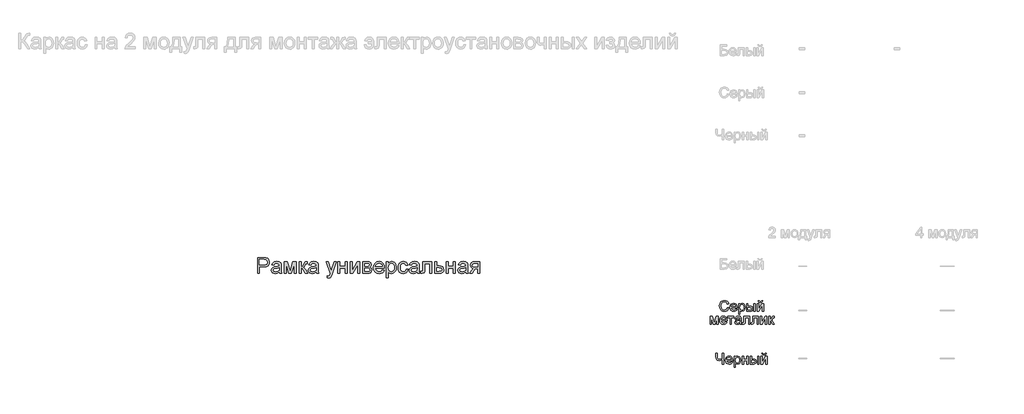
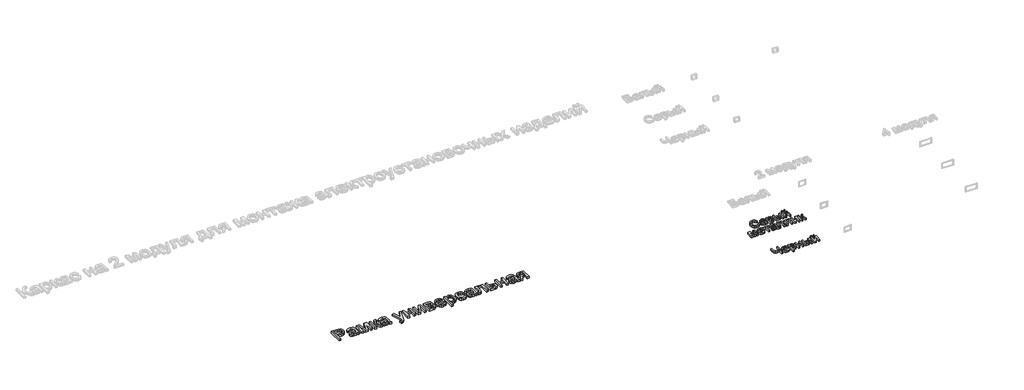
# One storey, part 18 of 48: 3 proxies.
"""IFC4 building model written with IfcOpenShell, lengths in millimetres."""

from ifc_helpers import new_model, si_unit, origin, origin_with_axes, place, context, project, spatial, polyline, outline, extrude, element, save

model = new_model("IFC4")

# Units and contexts
model_context = context("Model", 3, world=origin())
ifc_project = project(units=[si_unit("LENGTHUNIT", "METRE", prefix="MILLI")], contexts=[model_context])

# Site, building, storey
site = spatial("IfcSite", under=ifc_project)
building = spatial("IfcBuilding", under=site)
storey = spatial("IfcBuildingStorey", under=building, Name="Этаж 01", Elevation=0.0)

# Proxies
placement = place(None, origin())
element("IfcBuildingElementProxy", 1, Name="150 мм Arial", ObjectType="150 мм Arial", at=placement, inside=storey, context=model_context, shape_type="SweptSolid", body=[
    extrude(outline(polyline([(72135.2123752, -7707.9423103), (72135.2123752, -7557.257845), (72191.0568621, -7557.257845), (72213.5712402, -7558.6925848), (72231.8733695, -7565.737525), (72243.7375638, -7580.305652), (72248.2257242, -7600.8518615), (72245.1952962, -7618.6113648), (72236.1040124, -7633.409418), (72219.1032657, -7643.3974142), (72192.3444491, -7646.7267463), (72154.0479334, -7646.7267463), (72154.0479334, -7707.9423103), (72135.2123752, -7707.9423103)]), holes=[polyline([(72154.0479334, -7627.8911881), (72193.4480951, -7627.8911881), (72210.1499377, -7626.1621427), (72221.1863975, -7620.9750066), (72227.3392239, -7612.6516765), (72229.390166, -7601.5140491), (72224.5525178, -7585.9158525), (72211.8421948, -7577.3809902), (72193.0066367, -7576.0934032), (72154.0479334, -7576.0934032), (72154.0479334, -7627.8911881)])]), origin_with_axes(), (0.0, 0.0, 1.0), 20.0),
    extrude(outline(polyline([(72342.4035149, -7693.8156417), (72324.1381739, -7706.5811469), (72303.9598464, -7710.296755), (72288.2190956, -7708.0618719), (72276.6078201, -7701.3572226), (72269.4479168, -7691.1760883), (72267.0612823, -7678.5117507), (72270.6665259, -7663.6125299), (72280.1394872, -7652.7967992), (72293.3280568, -7646.6163817), (72309.6252291, -7643.7836903), (72342.2931503, -7637.3089672), (72342.4035149, -7633.1151125), (72341.1067309, -7624.7090089), (72337.2163788, -7619.209173), (72328.5159696, -7615.1256829), (72316.3942579, -7613.7645195), (72297.3379705, -7617.3881572), (72288.2512852, -7630.2456329), (72269.4157271, -7627.8911881), (72277.5643133, -7609.4970884), (72293.9718503, -7598.7181459), (72318.822279, -7594.9289614), (72341.6493568, -7598.2766875), (72354.5436208, -7606.6827911), (72360.3193681, -7619.4666904), (72361.2390731, -7635.9478038), (72361.2390731, -7659.3818869), (72362.1955663, -7692.1049904), (72365.9479626, -7707.9423103), (72347.1124045, -7707.9423103), (72342.4035149, -7693.8156417)]), holes=[polyline([(72342.4035149, -7656.1445254), (72312.0164621, -7661.9202727), (72295.8112602, -7664.9736932), (72288.4720144, -7669.9401002), (72285.8968405, -7677.1873755), (72291.5070409, -7687.3777067), (72307.9697602, -7691.4611969), (72327.0260475, -7686.9546424), (72339.3133062, -7676.0469413), (72342.2931503, -7661.4788143), (72342.4035149, -7656.1445254)])]), origin_with_axes(), (0.0, 0.0, 1.0), 20.0),
    extrude(outline(polyline([(72387.1379655, -7597.2834061), (72419.5483693, -7597.2834061), (72444.5275568, -7685.8693906), (72471.4565188, -7597.2834061), (72502.5057592, -7597.2834061), (72502.5057592, -7707.9423103), (72483.6702011, -7707.9423103), (72483.6702011, -7618.841291), (72456.5940862, -7707.9423103), (72431.8724161, -7707.9423103), (72405.9735237, -7614.5738599), (72405.9735237, -7707.9423103), (72387.1379655, -7707.9423103), (72387.1379655, -7597.2834061)])), origin_with_axes(), (0.0, 0.0, 1.0), 20.0),
    extrude(outline(polyline([(72530.7590965, -7597.2834061), (72549.5946546, -7597.2834061), (72549.5946546, -7644.3723015), (72562.213007, -7640.9877872), (72572.5504911, -7621.2693122), (72581.1405357, -7604.2547699), (72588.7189048, -7598.7181459), (72602.4960855, -7597.2834061), (72606.1013291, -7597.2834061), (72606.1013291, -7616.2293289), (72601.0245575, -7616.1189643), (72591.8275076, -7618.1055271), (72585.3527845, -7630.5031503), (72577.7560213, -7643.912449), (72567.1058376, -7650.4791426), (72578.988426, -7657.8091914), (72590.6502853, -7673.2510381), (72610.8102186, -7707.9423103), (72589.3994865, -7707.9423103), (72569.6442233, -7673.9868021), (72559.7114095, -7659.6210102), (72549.5946546, -7656.1445254), (72549.5946546, -7707.9423103), (72530.7590965, -7707.9423103), (72530.7590965, -7597.2834061)])), origin_with_axes(), (0.0, 0.0, 1.0), 20.0),
    extrude(outline(polyline([(72693.2157855, -7693.8156417), (72674.9504445, -7706.5811469), (72654.772117, -7710.296755), (72639.0313662, -7708.0618719), (72627.4200907, -7701.3572226), (72620.2601874, -7691.1760883), (72617.8735529, -7678.5117507), (72621.4787965, -7663.6125299), (72630.9517578, -7652.7967992), (72644.1403274, -7646.6163817), (72660.4374997, -7643.7836903), (72693.1054209, -7637.3089672), (72693.2157855, -7633.1151125), (72691.9190015, -7624.7090089), (72688.0286494, -7619.209173), (72679.3282402, -7615.1256829), (72667.2065285, -7613.7645195), (72648.1502411, -7617.3881572), (72639.0635558, -7630.2456329), (72620.2279977, -7627.8911881), (72628.3765839, -7609.4970884), (72644.7841209, -7598.7181459), (72669.6345496, -7594.9289614), (72692.4616274, -7598.2766875), (72705.3558914, -7606.6827911), (72711.1316387, -7619.4666904), (72712.0513437, -7635.9478038), (72712.0513437, -7659.3818869), (72713.0078369, -7692.1049904), (72716.7602332, -7707.9423103), (72697.9246751, -7707.9423103), (72693.2157855, -7693.8156417)]), holes=[polyline([(72693.2157855, -7656.1445254), (72662.8287327, -7661.9202727), (72646.6235308, -7664.9736932), (72639.284285, -7669.9401002), (72636.7091111, -7677.1873755), (72642.3193115, -7687.3777067), (72658.7820308, -7691.4611969), (72677.8383181, -7686.9546424), (72690.1255768, -7676.0469413), (72693.1054209, -7661.4788143), (72693.2157855, -7656.1445254)])]), origin_with_axes(), (0.0, 0.0, 1.0), 20.0),
    extrude(outline(polyline([(72796.8113554, -7750.3223161), (72794.4569106, -7732.1857338), (72804.0218425, -7733.8412027), (72812.961375, -7731.7626695), (72818.4428167, -7725.968528), (72823.5931646, -7712.0993768), (72825.0646926, -7707.5376401), (72785.0391315, -7597.2834061), (72804.9047593, -7597.2834061), (72826.1315504, -7658.7196993), (72833.5259785, -7683.2942166), (72840.9204066, -7661.5891789), (72862.7358089, -7597.2834061), (72882.4542838, -7597.2834061), (72843.9370389, -7710.5910606), (72833.9306487, -7735.1655779), (72823.0045534, -7748.4461179), (72808.3260618, -7752.6767609), (72796.8113554, -7750.3223161)])), origin_with_axes(), (0.0, 0.0, 1.0), 20.0),
    extrude(outline(polyline([(72898.0524804, -7597.2834061), (72916.8880386, -7597.2834061), (72916.8880386, -7639.663412), (72966.3313787, -7639.663412), (72966.3313787, -7597.2834061), (72985.1669369, -7597.2834061), (72985.1669369, -7707.9423103), (72966.3313787, -7707.9423103), (72966.3313787, -7658.4989701), (72916.8880386, -7658.4989701), (72916.8880386, -7707.9423103), (72898.0524804, -7707.9423103), (72898.0524804, -7597.2834061)])), origin_with_axes(), (0.0, 0.0, 1.0), 20.0),
    extrude(outline(polyline([(73013.4202741, -7597.2834061), (73032.2558323, -7597.2834061), (73032.2558323, -7681.6755358), (73078.5353873, -7597.2834061), (73102.8891753, -7597.2834061), (73102.8891753, -7707.9423103), (73084.0536172, -7707.9423103), (73084.0536172, -7624.0652154), (73038.0683678, -7707.9423103), (73013.4202741, -7707.9423103), (73013.4202741, -7597.2834061)])), origin_with_axes(), (0.0, 0.0, 1.0), 20.0),
    extrude(outline(polyline([(73131.1425126, -7597.2834061), (73172.6396016, -7597.2834061), (73195.393103, -7599.8033978), (73208.1953965, -7609.0372359), (73213.5480795, -7625.1320732), (73210.3107179, -7638.2102781), (73200.5618451, -7647.5360867), (73213.2169857, -7657.744812), (73218.256969, -7675.4951183), (73215.0655927, -7689.8517132), (73207.4780266, -7699.959271), (73195.4666794, -7705.9465504), (73179.0039602, -7707.9423103), (73131.1425126, -7707.9423103), (73131.1425126, -7597.2834061)]), holes=[polyline([(73149.9780707, -7639.663412), (73168.5928997, -7639.663412), (73183.951973, -7638.7069188), (73191.4199775, -7634.880946), (73194.7125213, -7627.9647645), (73193.2685845, -7622.345367), (73188.936774, -7618.7309264), (73169.1815109, -7616.1189643), (73149.9780707, -7616.1189643), (73149.9780707, -7639.663412)]), polyline([(73149.9780707, -7689.1067521), (73173.08106, -7689.1067521), (73193.5720872, -7685.7038437), (73197.8119272, -7681.063932), (73199.4214109, -7673.9500139), (73196.2024434, -7664.8817227), (73187.8147339, -7659.6026161), (73171.2416501, -7658.4989701), (73149.9780707, -7658.4989701), (73149.9780707, -7689.1067521)])]), origin_with_axes(), (0.0, 0.0, 1.0), 20.0),
    extrude(outline(polyline([(73319.2773649, -7674.9800835), (73337.7450411, -7677.3345283), (73331.0909755, -7691.2496647), (73320.4729814, -7701.6515282), (73306.1301821, -7708.1354483), (73288.3017009, -7710.296755), (73266.2011901, -7706.5673513), (73249.1958448, -7695.3791401), (73238.352523, -7677.4586884), (73234.7380824, -7653.5325632), (73238.3893112, -7628.8016961), (73249.3429976, -7610.3064288), (73266.1184166, -7598.7733282), (73287.2348431, -7594.9289614), (73307.6936806, -7598.7641312), (73324.0414367, -7610.2696406), (73334.7605984, -7628.7281197), (73338.3336523, -7653.4221986), (73338.2232877, -7658.4989701), (73253.5736406, -7658.4989701), (73256.8339948, -7672.5980476), (73264.4077653, -7682.9631228), (73275.3384591, -7689.3366784), (73288.6695829, -7691.4611969), (73307.1372591, -7687.5248595), (73319.2773649, -7674.9800835)]), holes=[polyline([(73253.5736406, -7639.663412), (73319.4980941, -7639.663412), (73316.9505113, -7629.712204), (73311.9565132, -7622.5936874), (73300.9752357, -7615.9718115), (73287.1612667, -7613.7645195), (73274.4647394, -7615.5257546), (73263.9663069, -7620.8094597), (73256.6684479, -7629.0454179), (73253.5736406, -7639.663412)])]), origin_with_axes(), (0.0, 0.0, 1.0), 20.0),
    extrude(outline(polyline([(73357.1692104, -7750.3223161), (73357.1692104, -7597.2834061), (73376.0047686, -7597.2834061), (73376.0047686, -7615.7510823), (73389.0277912, -7600.1344916), (73406.6125506, -7594.9289614), (73419.3504646, -7596.7499772), (73430.4880921, -7602.2130249), (73439.5563832, -7610.9870104), (73446.0862886, -7622.7408402), (73451.3470012, -7651.7667296), (73449.8616776, -7667.8753625), (73445.405707, -7682.2825411), (73438.1216435, -7694.2571001), (73428.1520414, -7703.0678738), (73416.5407659, -7708.4895347), (73404.3316822, -7710.296755), (73387.9425393, -7705.4591068), (73376.0047686, -7693.2270305), (73376.0047686, -7750.3223161), (73357.1692104, -7750.3223161)]), holes=[polyline([(73376.0047686, -7653.495775), (73378.0419151, -7670.3815586), (73384.1533548, -7682.1905706), (73393.1710622, -7689.1435403), (73403.927012, -7691.4611969), (73414.8577058, -7689.0607669), (73424.1053394, -7681.8594768), (73430.4099171, -7669.6182034), (73432.511443, -7652.0978234), (73430.4605009, -7635.3040103), (73424.3076745, -7623.3294514), (73415.3037627, -7616.1557525), (73404.6995642, -7613.7645195), (73394.053979, -7616.3075038), (73384.7051778, -7623.9364567), (73378.1798709, -7636.4122548), (73376.0047686, -7653.495775)])]), origin_with_axes(), (0.0, 0.0, 1.0), 20.0),
    extrude(outline(polyline([(73543.1703472, -7667.9167492), (73562.0059053, -7670.271194), (73556.7543898, -7687.0236203), (73546.8859553, -7699.6833595), (73533.3295038, -7707.6434062), (73517.0139373, -7710.296755), (73496.9781642, -7706.5949425), (73481.3109897, -7695.4895047), (73471.1988333, -7677.4678855), (73467.8281146, -7653.0175284), (73469.2674529, -7636.255905), (73473.5854678, -7621.7291647), (73480.8511372, -7609.9983276), (73491.133439, -7601.6244137), (73503.4344932, -7596.6028244), (73516.7564199, -7594.9289614), (73532.6719147, -7597.2282238), (73545.3960332, -7604.1260112), (73554.5241053, -7615.2544416), (73559.6514606, -7630.2456329), (73540.8159024, -7632.6000777), (73532.078705, -7618.4918031), (73516.9035727, -7613.7645195), (73504.7312772, -7616.0913731), (73495.0697763, -7623.071934), (73488.7651986, -7635.0832811), (73486.6636727, -7652.5024936), (73488.7192134, -7670.1562308), (73494.8858353, -7682.2089647), (73504.3725923, -7689.1481388), (73516.3885379, -7691.4611969), (73526.1420093, -7690.0172601), (73534.1388442, -7685.6854496), (73539.9559782, -7678.3554008), (73543.1703472, -7667.9167492)])), origin_with_axes(), (0.0, 0.0, 1.0), 20.0),
    extrude(outline(polyline([(73649.1203618, -7693.8156417), (73630.8550207, -7706.5811469), (73610.6766933, -7710.296755), (73594.9359424, -7708.0618719), (73583.324667, -7701.3572226), (73576.1647636, -7691.1760883), (73573.7781292, -7678.5117507), (73577.3833727, -7663.6125299), (73586.8563341, -7652.7967992), (73600.0449036, -7646.6163817), (73616.342076, -7643.7836903), (73649.0099972, -7637.3089672), (73649.1203618, -7633.1151125), (73647.8235778, -7624.7090089), (73643.9332257, -7619.209173), (73635.2328165, -7615.1256829), (73623.1111047, -7613.7645195), (73604.0548174, -7617.3881572), (73594.9681321, -7630.2456329), (73576.1325739, -7627.8911881), (73584.2811601, -7609.4970884), (73600.6886971, -7598.7181459), (73625.5391259, -7594.9289614), (73648.3662037, -7598.2766875), (73661.2604676, -7606.6827911), (73667.036215, -7619.4666904), (73667.9559199, -7635.9478038), (73667.9559199, -7659.3818869), (73668.9124131, -7692.1049904), (73672.6648095, -7707.9423103), (73653.8292513, -7707.9423103), (73649.1203618, -7693.8156417)]), holes=[polyline([(73649.1203618, -7656.1445254), (73618.733309, -7661.9202727), (73602.5281071, -7664.9736932), (73595.1888613, -7669.9401002), (73592.6136873, -7677.1873755), (73598.2238878, -7687.3777067), (73614.686607, -7691.4611969), (73633.7428944, -7686.9546424), (73646.030153, -7676.0469413), (73649.0099972, -7661.4788143), (73649.1203618, -7656.1445254)])]), origin_with_axes(), (0.0, 0.0, 1.0), 20.0),
    extrude(outline(polyline([(73703.2725915, -7597.2834061), (73788.0326032, -7597.2834061), (73788.0326032, -7707.8319457), (73769.197045, -7707.8319457), (73769.197045, -7616.1189643), (73722.1081496, -7616.1189643), (73722.1081496, -7668.9100306), (73720.8389567, -7693.2638187), (73713.8675929, -7703.5461204), (73697.3864796, -7707.9423103), (73682.0825886, -7706.9858171), (73682.0825886, -7689.1067521), (73690.5070862, -7689.1067521), (73699.0235544, -7687.9479238), (73702.4264629, -7684.2691039), (73703.2725915, -7667.8431728), (73703.2725915, -7597.2834061)])), origin_with_axes(), (0.0, 0.0, 1.0), 20.0),
    extrude(outline(polyline([(73816.2859404, -7597.2834061), (73835.1214985, -7597.2834061), (73835.1214985, -7637.3089672), (73856.8265363, -7637.3089672), (73875.6437003, -7639.6680105), (73889.5680338, -7646.7451404), (73898.1764725, -7657.9701398), (73901.0459521, -7672.7727915), (73898.6041353, -7686.2510681), (73891.2786851, -7697.6232203), (73878.5821578, -7705.3625378), (73860.0271096, -7707.9423103), (73816.2859404, -7707.9423103), (73816.2859404, -7597.2834061)]), holes=[polyline([(73835.1214985, -7689.1067521), (73852.7062579, -7689.1067521), (73875.4229711, -7685.1520207), (73880.5135382, -7680.0890447), (73882.2103939, -7672.8095797), (73877.1888047, -7661.2212969), (73869.1183934, -7657.4137182), (73854.9503381, -7656.1445254), (73835.1214985, -7656.1445254), (73835.1214985, -7689.1067521)])]), origin_with_axes(), (0.0, 0.0, 1.0), 20.0),
    extrude(outline(polyline([(73924.5903998, -7597.2834061), (73943.4259579, -7597.2834061), (73943.4259579, -7639.663412), (73992.8692981, -7639.663412), (73992.8692981, -7597.2834061), (74011.7048562, -7597.2834061), (74011.7048562, -7707.9423103), (73992.8692981, -7707.9423103), (73992.8692981, -7658.4989701), (73943.4259579, -7658.4989701), (73943.4259579, -7707.9423103), (73924.5903998, -7707.9423103), (73924.5903998, -7597.2834061)])), origin_with_axes(), (0.0, 0.0, 1.0), 20.0),
    extrude(outline(polyline([(74110.5915365, -7693.8156417), (74092.3261955, -7706.5811469), (74072.147868, -7710.296755), (74056.4071172, -7708.0618719), (74044.7958417, -7701.3572226), (74037.6359384, -7691.1760883), (74035.2493039, -7678.5117507), (74038.8545475, -7663.6125299), (74048.3275089, -7652.7967992), (74061.5160784, -7646.6163817), (74077.8132508, -7643.7836903), (74110.4811719, -7637.3089672), (74110.5915365, -7633.1151125), (74109.2947525, -7624.7090089), (74105.4044004, -7619.209173), (74096.7039912, -7615.1256829), (74084.5822795, -7613.7645195), (74065.5259921, -7617.3881572), (74056.4393068, -7630.2456329), (74037.6037487, -7627.8911881), (74045.7523349, -7609.4970884), (74062.1598719, -7598.7181459), (74087.0103006, -7594.9289614), (74109.8373784, -7598.2766875), (74122.7316424, -7606.6827911), (74128.5073897, -7619.4666904), (74129.4270947, -7635.9478038), (74129.4270947, -7659.3818869), (74130.3835879, -7692.1049904), (74134.1359842, -7707.9423103), (74115.3004261, -7707.9423103), (74110.5915365, -7693.8156417)]), holes=[polyline([(74110.5915365, -7656.1445254), (74080.2044837, -7661.9202727), (74063.9992818, -7664.9736932), (74056.660036, -7669.9401002), (74054.0848621, -7677.1873755), (74059.6950625, -7687.3777067), (74076.1577818, -7691.4611969), (74095.2140691, -7686.9546424), (74107.5013278, -7676.0469413), (74110.4811719, -7661.4788143), (74110.5915365, -7656.1445254)])]), origin_with_axes(), (0.0, 0.0, 1.0), 20.0),
    extrude(outline(polyline([(74240.0859988, -7597.2834061), (74240.0859988, -7707.9423103), (74221.2504407, -7707.9423103), (74221.2504407, -7665.5623044), (74210.986533, -7665.5623044), (74197.0070172, -7667.9535374), (74183.87363, -7684.0299806), (74168.8640446, -7707.9423103), (74147.0854305, -7707.9423103), (74165.994565, -7677.7024103), (74174.3454863, -7666.8498914), (74182.03422, -7662.0306373), (74169.1583502, -7658.0851029), (74160.1084531, -7650.5895072), (74154.7557701, -7640.6199052), (74152.9715424, -7629.2523515), (74155.4087606, -7616.3580876), (74162.7204153, -7606.1493622), (74174.6489889, -7599.4998951), (74190.9369643, -7597.2834061), (74240.0859988, -7597.2834061)]), holes=[polyline([(74221.2504407, -7616.1189643), (74196.418406, -7616.1189643), (74183.59312, -7617.2088147), (74176.313655, -7620.4783659), (74171.8071005, -7630.6870913), (74173.467168, -7637.8653887), (74178.4473705, -7642.8455912), (74201.9734241, -7646.7267463), (74221.2504407, -7646.7267463), (74221.2504407, -7616.1189643)])]), origin_with_axes(), (0.0, 0.0, 1.0), 20.0),
])
element("IfcBuildingElementProxy", 2, Name="100 мм Arial", ObjectType="100 мм Arial", at=placement, inside=storey, context=model_context, shape_type="SweptSolid", body=[
    extrude(outline(polyline([(76590.4328092, -8031.5319312), (76602.9898479, -8034.7692928), (76597.1957065, -8049.4017991), (76588.1028899, -8060.0918368), (76576.1589878, -8066.6309392), (76561.8115899, -8068.8106401), (76547.2465286, -8067.1613024), (76535.6797055, -8062.2132896), (76526.8137495, -8054.1382798), (76520.3512891, -8043.1079513), (76515.0905766, -8016.2525657), (76516.5774329, -8001.6047309), (76521.0380021, -7988.9557216), (76528.2392922, -7978.7071424), (76537.9483112, -7971.2605977), (76549.4630176, -7966.7264521), (76562.0813701, -7965.2150702), (76575.8493537, -7967.1709762), (76587.2322358, -7973.038694), (76595.874397, -7982.4564731), (76601.4202181, -7995.0625628), (76588.8631793, -7998.0546697), (76578.5624835, -7982.6158886), (76561.5908607, -7977.772109), (76541.9459622, -7983.1431861), (76530.8481887, -7997.5641603), (76527.6476153, -8016.2280402), (76531.4367999, -8037.8595015), (76543.2335492, -8051.6796018), (76560.5607912, -8056.2536013), (76571.0423623, -8054.6962342), (76579.776494, -8050.0241328), (76586.3707788, -8042.2863482), (76590.4328092, -8031.5319312)])), origin_with_axes(), (0.0, 0.0, 1.0), 20.0),
    extrude(outline(polyline([(76670.3367785, -8045.2661924), (76682.6485626, -8046.8358222), (76678.2125189, -8056.1125799), (76671.1338562, -8063.0471555), (76661.57199, -8067.3697689), (76649.6863359, -8068.8106401), (76634.9526619, -8066.3243709), (76623.6157651, -8058.8655635), (76616.3868839, -8046.9185957), (76613.9772569, -8030.9678455), (76616.4114094, -8014.4806007), (76623.713867, -8002.1504225), (76634.8974796, -7994.4616888), (76648.9750973, -7991.8987776), (76662.6143223, -7994.4555575), (76673.5128264, -8002.1258971), (76680.6589342, -8014.4315498), (76683.0409701, -8030.8942691), (76682.9673937, -8034.2787834), (76626.5342956, -8034.2787834), (76628.7078651, -8043.6781684), (76633.7570455, -8050.5882186), (76641.0441746, -8054.8372556), (76649.9315905, -8056.2536013), (76662.2433746, -8053.6293764), (76670.3367785, -8045.2661924)]), holes=[polyline([(76626.5342956, -8021.7217447), (76670.4839313, -8021.7217447), (76665.4562107, -8010.3419283), (76658.135359, -8005.9273444), (76648.9260464, -8004.4558164), (76633.4627399, -8009.1524432), (76628.5975005, -8014.643082), (76626.5342956, -8021.7217447)])]), origin_with_axes(), (0.0, 0.0, 1.0), 20.0),
    extrude(outline(polyline([(76695.5980089, -8095.4943474), (76695.5980089, -7993.4684074), (76708.1550476, -7993.4684074), (76708.1550476, -8005.7801916), (76716.8370627, -7995.3691311), (76728.5602356, -7991.8987776), (76744.4772633, -7996.7548199), (76754.876061, -8010.4400302), (76758.3832027, -8029.7906231), (76754.4223399, -8050.1344974), (76742.9198962, -8063.9913859), (76727.0396567, -8068.8106401), (76716.1135614, -8065.5855412), (76708.1550476, -8057.4308237), (76708.1550476, -8095.4943474), (76695.5980089, -8095.4943474)]), holes=[polyline([(76708.1550476, -8030.94332), (76709.5131453, -8042.2005091), (76713.5874384, -8050.0731838), (76719.5992434, -8054.7084969), (76726.7698766, -8056.2536013), (76734.0570058, -8054.6533146), (76740.2220949, -8049.8524546), (76744.4251467, -8041.6916057), (76745.8261639, -8030.0113523), (76744.4588692, -8018.8154769), (76740.3569849, -8010.8324376), (76734.354377, -8006.0499717), (76727.2849114, -8004.4558164), (76720.1878545, -8006.1511392), (76713.9553204, -8011.2371078), (76709.6051158, -8019.5543066), (76708.1550476, -8030.94332)])]), origin_with_axes(), (0.0, 0.0, 1.0), 20.0),
    extrude(outline(polyline([(76841.5735845, -7993.4684074), (76854.1306233, -7993.4684074), (76854.1306233, -8067.2410102), (76841.5735845, -8067.2410102), (76841.5735845, -7993.4684074)])), origin_with_axes(), (0.0, 0.0, 1.0), 20.0),
    extrude(outline(polyline([(76772.5098713, -7993.4684074), (76785.0669101, -7993.4684074), (76785.0669101, -8020.1521148), (76800.5915303, -8020.1521148), (76814.010026, -8021.7248104), (76823.952037, -8026.442897), (76830.1048633, -8033.9262299), (76832.1558055, -8043.7946644), (76830.4359571, -8052.7801821), (76825.2764122, -8060.3616169), (76816.3399454, -8065.5211619), (76803.2893316, -8067.2410102), (76772.5098713, -8067.2410102), (76772.5098713, -7993.4684074)]), holes=[polyline([(76785.0669101, -8054.6839714), (76797.9673054, -8054.6839714), (76814.620097, -8052.0474838), (76819.5987667, -8043.8191899), (76815.907684, -8036.093668), (76799.6105116, -8032.7091536), (76785.0669101, -8032.7091536), (76785.0669101, -8054.6839714)])]), origin_with_axes(), (0.0, 0.0, 1.0), 20.0),
    extrude(outline(polyline([(76913.7765575, -7966.7847001), (76923.1943365, -7966.7847001), (76917.0997581, -7980.7519531), (76903.5739635, -7985.6202582), (76888.93226, -7980.7887413), (76882.3839605, -7966.7847001), (76891.8017396, -7966.7847001), (76895.3334068, -7973.8602971), (76902.445792, -7976.2024791), (76910.2448903, -7973.9338735), (76913.7765575, -7966.7847001)])), origin_with_axes(), (0.0, 0.0, 1.0), 20.0),
    extrude(outline(polyline([(76872.9661815, -7993.4684074), (76885.5232202, -7993.4684074), (76885.5232202, -8049.7298272), (76916.3762569, -7993.4684074), (76932.6121156, -7993.4684074), (76932.6121156, -8067.2410102), (76920.0550768, -8067.2410102), (76920.0550768, -8011.3229469), (76889.3982439, -8067.2410102), (76872.9661815, -8067.2410102), (76872.9661815, -7993.4684074)])), origin_with_axes(), (0.0, 0.0, 1.0), 20.0),
    extrude(outline(polyline([(76426.4064902, -8115.4432253), (76448.0134261, -8115.4432253), (76464.6662177, -8174.5005483), (76482.6188591, -8115.4432253), (76503.3183527, -8115.4432253), (76503.3183527, -8189.2158281), (76490.7613139, -8189.2158281), (76490.7613139, -8129.8151486), (76472.7105707, -8189.2158281), (76456.2294573, -8189.2158281), (76438.963529, -8126.9701945), (76438.963529, -8189.2158281), (76426.4064902, -8189.2158281), (76426.4064902, -8115.4432253)])), origin_with_axes(), (0.0, 0.0, 1.0), 20.0),
    extrude(outline(polyline([(76573.804543, -8167.2410102), (76586.1163271, -8168.8106401), (76581.6802834, -8178.0873977), (76574.6016206, -8185.0219733), (76565.0397544, -8189.3445868), (76553.1541003, -8190.7854579), (76538.4204264, -8188.2991888), (76527.0835296, -8180.8403813), (76519.8546484, -8168.8934135), (76517.4450213, -8152.9426633), (76519.8791739, -8136.4554186), (76527.1816315, -8124.1252404), (76538.3652441, -8116.4365067), (76552.4428618, -8113.8735954), (76566.0820868, -8116.4303753), (76576.9805909, -8124.1007149), (76584.1266986, -8136.4063677), (76586.5087345, -8152.8690869), (76586.4351581, -8156.2536013), (76530.0020601, -8156.2536013), (76532.1756295, -8165.6529863), (76537.2248099, -8172.5630364), (76544.5119391, -8176.8120735), (76553.399355, -8178.2284191), (76565.7111391, -8175.6041942), (76573.804543, -8167.2410102)]), holes=[polyline([(76530.0020601, -8143.6965625), (76573.9516958, -8143.6965625), (76568.9239752, -8132.3167461), (76561.6031235, -8127.9021622), (76552.3938109, -8126.4306342), (76536.9305043, -8131.127261), (76532.0652649, -8136.6178998), (76530.0020601, -8143.6965625)])]), origin_with_axes(), (0.0, 0.0, 1.0), 20.0),
    extrude(outline(polyline([(76592.7872539, -8115.4432253), (76652.4331881, -8115.4432253), (76652.4331881, -8128.0002641), (76628.8887404, -8128.0002641), (76628.8887404, -8189.2158281), (76616.3317016, -8189.2158281), (76616.3317016, -8128.0002641), (76592.7872539, -8128.0002641), (76592.7872539, -8115.4432253)])), origin_with_axes(), (0.0, 0.0, 1.0), 20.0),
    extrude(outline(polyline([(76710.5094924, -8179.798049), (76698.3325983, -8188.3083858), (76684.8803801, -8190.7854579), (76674.3865461, -8189.2955358), (76666.6456958, -8184.8257696), (76661.8724269, -8178.0383468), (76660.2813373, -8169.595455), (76662.684833, -8159.6626411), (76669.0001406, -8152.452154), (76677.7925203, -8148.3318757), (76688.6573019, -8146.4434148), (76710.435916, -8142.1269327), (76710.5094924, -8139.3310295), (76707.0514016, -8130.0604032), (76693.1699877, -8126.4306342), (76680.4657961, -8128.8463927), (76674.4080059, -8137.4180431), (76661.8509672, -8135.8484133), (76667.283358, -8123.5856801), (76678.2217159, -8116.3997185), (76694.7886685, -8113.8735954), (76710.0067203, -8116.1054129), (76718.6028963, -8121.7094819), (76722.4533945, -8130.2320815), (76723.0665312, -8141.2194904), (76723.0665312, -8156.8422125), (76723.7041933, -8178.6576148), (76726.2057908, -8189.2158281), (76713.6487521, -8189.2158281), (76710.5094924, -8179.798049)]), holes=[polyline([(76710.5094924, -8154.6839714), (76690.2514572, -8158.5344697), (76679.4479893, -8160.5700834), (76674.5551587, -8163.8810213), (76672.8383761, -8168.7125382), (76676.5785097, -8175.5060924), (76687.5536559, -8178.2284191), (76700.2578475, -8175.2240495), (76708.4493532, -8167.9522487), (76710.435916, -8158.2401641), (76710.5094924, -8154.6839714)])]), origin_with_axes(), (0.0, 0.0, 1.0), 20.0),
    extrude(outline(polyline([(76746.6109788, -8115.4432253), (76803.1176533, -8115.4432253), (76803.1176533, -8189.1422517), (76790.5606145, -8189.1422517), (76790.5606145, -8128.0002641), (76759.1680176, -8128.0002641), (76759.1680176, -8163.1943083), (76758.321889, -8179.430167), (76753.6743132, -8186.2850348), (76742.6869042, -8189.2158281), (76732.4843102, -8188.5781659), (76732.4843102, -8176.6587893), (76738.100642, -8176.6587893), (76743.7782875, -8175.8862371), (76746.0468931, -8173.4336905), (76746.6109788, -8162.4830697), (76746.6109788, -8115.4432253)])), origin_with_axes(), (0.0, 0.0, 1.0), 20.0),
    extrude(outline(polyline([(76828.2317308, -8115.4432253), (76884.7384053, -8115.4432253), (76884.7384053, -8189.1422517), (76872.1813665, -8189.1422517), (76872.1813665, -8128.0002641), (76840.7887696, -8128.0002641), (76840.7887696, -8163.1943083), (76839.942641, -8179.430167), (76835.2950652, -8186.2850348), (76824.3076562, -8189.2158281), (76814.1050622, -8188.5781659), (76814.1050622, -8176.6587893), (76819.721394, -8176.6587893), (76825.3990395, -8175.8862371), (76827.6676451, -8173.4336905), (76828.2317308, -8162.4830697), (76828.2317308, -8115.4432253)])), origin_with_axes(), (0.0, 0.0, 1.0), 20.0),
    extrude(outline(polyline([(76903.5739635, -8115.4432253), (76916.1310022, -8115.4432253), (76916.1310022, -8171.7046451), (76946.9840389, -8115.4432253), (76963.2198976, -8115.4432253), (76963.2198976, -8189.2158281), (76950.6628588, -8189.2158281), (76950.6628588, -8133.2977648), (76920.0060259, -8189.2158281), (76903.5739635, -8189.2158281), (76903.5739635, -8115.4432253)])), origin_with_axes(), (0.0, 0.0, 1.0), 20.0),
    extrude(outline(polyline([(76982.0554558, -8115.4432253), (76994.6124945, -8115.4432253), (76994.6124945, -8146.8358222), (77003.0247295, -8144.5794793), (77009.9163855, -8131.4338294), (77015.6430819, -8120.0908012), (77020.695328, -8116.3997185), (77029.8801151, -8115.4432253), (77032.2836108, -8115.4432253), (77032.2836108, -8128.0738405), (77028.8990965, -8128.0002641), (77022.7677299, -8129.3246392), (77018.4512478, -8137.5897214), (77013.386739, -8146.5292539), (77006.2866165, -8150.9070496), (77014.2083421, -8155.7937488), (77021.982915, -8166.0883133), (77035.4228705, -8189.2158281), (77021.1490491, -8189.2158281), (77007.9788737, -8166.5788226), (77001.3569978, -8157.001628), (76994.6124945, -8154.6839714), (76994.6124945, -8189.2158281), (76982.0554558, -8189.2158281), (76982.0554558, -8115.4432253)])), origin_with_axes(), (0.0, 0.0, 1.0), 20.0),
])
element("IfcBuildingElementProxy", 3, Name="100 мм Arial", ObjectType="100 мм Arial", at=placement, inside=storey, context=model_context, shape_type="SweptSolid", body=[
    extrude(outline(polyline([(76555.9009525, -8567.2410102), (76543.3439138, -8567.2410102), (76543.3439138, -8527.0192454), (76512.2456225, -8534.2787834), (76493.8883109, -8529.3123765), (76483.2442585, -8516.7062868), (76480.5587199, -8496.705769), (76480.5587199, -8466.7847001), (76493.1157587, -8466.7847001), (76493.1157587, -8495.0135118), (76494.6240749, -8508.5914231), (76499.1490234, -8516.559134), (76513.643574, -8521.7217447), (76543.3439138, -8515.4922762), (76543.3439138, -8466.7847001), (76555.9009525, -8466.7847001), (76555.9009525, -8567.2410102)])), origin_with_axes(), (0.0, 0.0, 1.0), 20.0),
    extrude(outline(polyline([(76627.9567727, -8545.2661924), (76640.2685568, -8546.8358222), (76635.8325131, -8556.1125799), (76628.7538503, -8563.0471555), (76619.1919841, -8567.3697689), (76607.30633, -8568.8106401), (76592.5726561, -8566.3243709), (76581.2357593, -8558.8655635), (76574.0068781, -8546.9185957), (76571.597251, -8530.9678455), (76574.0314035, -8514.4806007), (76581.3338611, -8502.1504225), (76592.5174738, -8494.4616888), (76606.5950915, -8491.8987776), (76620.2343165, -8494.4555575), (76631.1328206, -8502.1258971), (76638.2789283, -8514.4315498), (76640.6609642, -8530.8942691), (76640.5873878, -8534.2787834), (76584.1542898, -8534.2787834), (76586.3278592, -8543.6781684), (76591.3770396, -8550.5882186), (76598.6641688, -8554.8372556), (76607.5515847, -8556.2536013), (76619.8633688, -8553.6293764), (76627.9567727, -8545.2661924)]), holes=[polyline([(76584.1542898, -8521.7217447), (76628.1039255, -8521.7217447), (76623.0762049, -8510.3419283), (76615.7553532, -8505.9273444), (76606.5460406, -8504.4558164), (76591.082734, -8509.1524432), (76586.2174946, -8514.643082), (76584.1542898, -8521.7217447)])]), origin_with_axes(), (0.0, 0.0, 1.0), 20.0),
    extrude(outline(polyline([(76653.218003, -8595.4943474), (76653.218003, -8493.4684074), (76665.7750418, -8493.4684074), (76665.7750418, -8505.7801916), (76674.4570569, -8495.3691311), (76686.1802298, -8491.8987776), (76702.0972574, -8496.7548199), (76712.4960552, -8510.4400302), (76716.0031969, -8529.7906231), (76712.042334, -8550.1344974), (76700.5398903, -8563.9913859), (76684.6596509, -8568.8106401), (76673.7335556, -8565.5855412), (76665.7750418, -8557.4308237), (76665.7750418, -8595.4943474), (76653.218003, -8595.4943474)]), holes=[polyline([(76665.7750418, -8530.94332), (76667.1331395, -8542.2005091), (76671.2074326, -8550.0731838), (76677.2192375, -8554.7084969), (76684.3898707, -8556.2536013), (76691.6769999, -8554.6533146), (76697.842089, -8549.8524546), (76702.0451408, -8541.6916057), (76703.4461581, -8530.0113523), (76702.0788633, -8518.8154769), (76697.9769791, -8510.8324376), (76691.9743712, -8506.0499717), (76684.9049055, -8504.4558164), (76677.8078487, -8506.1511392), (76671.5753146, -8511.2371078), (76667.22511, -8519.5543066), (76665.7750418, -8530.94332)])]), origin_with_axes(), (0.0, 0.0, 1.0), 20.0),
    extrude(outline(polyline([(76730.1298655, -8493.4684074), (76742.6869042, -8493.4684074), (76742.6869042, -8521.7217447), (76775.649131, -8521.7217447), (76775.649131, -8493.4684074), (76788.2061698, -8493.4684074), (76788.2061698, -8567.2410102), (76775.649131, -8567.2410102), (76775.649131, -8534.2787834), (76742.6869042, -8534.2787834), (76742.6869042, -8567.2410102), (76730.1298655, -8567.2410102), (76730.1298655, -8493.4684074)])), origin_with_axes(), (0.0, 0.0, 1.0), 20.0),
    extrude(outline(polyline([(76876.1054412, -8493.4684074), (76888.6624799, -8493.4684074), (76888.6624799, -8567.2410102), (76876.1054412, -8567.2410102), (76876.1054412, -8493.4684074)])), origin_with_axes(), (0.0, 0.0, 1.0), 20.0),
    extrude(outline(polyline([(76807.0417279, -8493.4684074), (76819.5987667, -8493.4684074), (76819.5987667, -8520.1521148), (76835.1233869, -8520.1521148), (76848.5418827, -8521.7248104), (76858.4838936, -8526.442897), (76864.63672, -8533.9262299), (76866.6876621, -8543.7946644), (76864.9678137, -8552.7801821), (76859.8082688, -8560.3616169), (76850.871802, -8565.5211619), (76837.8211882, -8567.2410102), (76807.0417279, -8567.2410102), (76807.0417279, -8493.4684074)]), holes=[polyline([(76819.5987667, -8554.6839714), (76832.499162, -8554.6839714), (76849.1519536, -8552.0474838), (76854.1306233, -8543.8191899), (76850.4395406, -8536.093668), (76834.1423682, -8532.7091536), (76819.5987667, -8532.7091536), (76819.5987667, -8554.6839714)])]), origin_with_axes(), (0.0, 0.0, 1.0), 20.0),
    extrude(outline(polyline([(76907.4980381, -8493.4684074), (76920.0550768, -8493.4684074), (76920.0550768, -8549.7298272), (76950.9081135, -8493.4684074), (76967.1439722, -8493.4684074), (76967.1439722, -8567.2410102), (76954.5869335, -8567.2410102), (76954.5869335, -8511.3229469), (76923.9301005, -8567.2410102), (76907.4980381, -8567.2410102), (76907.4980381, -8493.4684074)])), origin_with_axes(), (0.0, 0.0, 1.0), 20.0),
    extrude(outline(polyline([(76948.3084141, -8466.7847001), (76957.7261931, -8466.7847001), (76951.6316148, -8480.7519531), (76938.1058201, -8485.6202582), (76923.4641167, -8480.7887413), (76916.9158171, -8466.7847001), (76926.3335962, -8466.7847001), (76929.8652634, -8473.8602971), (76936.9776486, -8476.2024791), (76944.7767469, -8473.9338735), (76948.3084141, -8466.7847001)])), origin_with_axes(), (0.0, 0.0, 1.0), 20.0),
])

save(model, "model.ifc")
